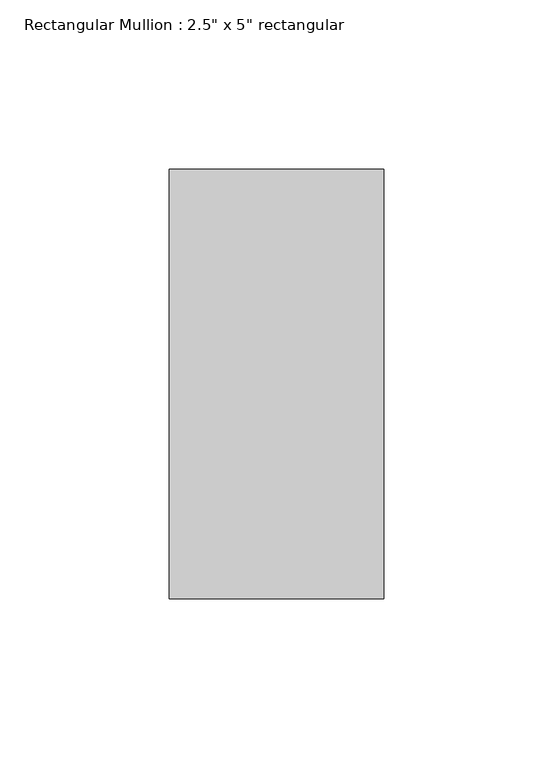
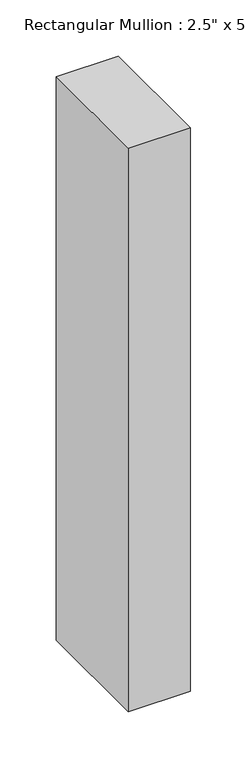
"""IFC4 building model written with IfcOpenShell, lengths in millimetres: member geometry."""

from ifc_helpers import new_model, si_unit, frame, origin, place, context, project, spatial, polyline, outline, extrude, source, transform, mapped, element, save


def member_6e77e263(model_context):
    return source(origin(), model_context, "Body", "SweptSolid", [
        extrude(outline(polyline([(31.75, 63.5), (31.75, -63.5), (-31.75, -63.5), (-31.75, 63.5), (31.75, 63.5)])), frame((0.0, 0.0, -609.6), z_axis=(0.0, 0.0, 1.0), x_axis=(1.0, 0.0, 0.0)), (0.0, 0.0, 1.0), 609.6),
    ])


if __name__ == "__main__":
    model = new_model("IFC4")
    model_context = context("Model", 3, world=origin())
    ifc_project = project(units=[si_unit("LENGTHUNIT", "METRE", prefix="MILLI")], contexts=[model_context])
    site = spatial("IfcSite", under=ifc_project)
    building = spatial("IfcBuilding", under=site)
    placement = place(None, origin())
    member_shape = member_6e77e263(model_context)
    element("IfcMember", 1, ObjectType="Rectangular Mullion : 2.5\" x 5\" rectangular", at=placement, inside=building, context=model_context, shape_type="MappedRepresentation", body=[
        mapped(member_shape, transform((0.0, 0.0, 0.0), x_axis=(1.0, 0.0, 0.0), y_axis=(0.0, 1.0, 0.0), z_axis=(0.0, 0.0, 1.0))),
    ])
    save(model, "model.ifc")
